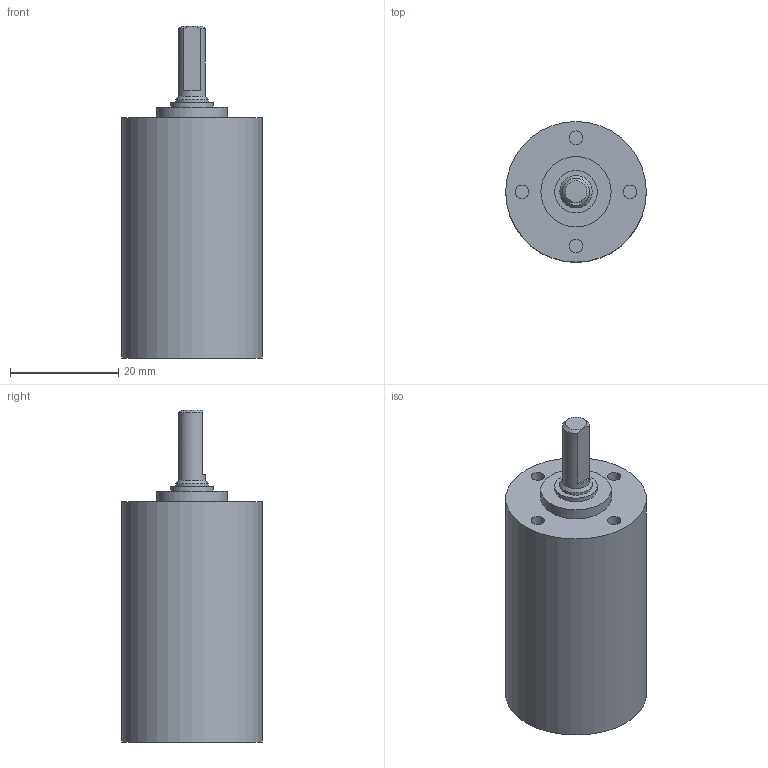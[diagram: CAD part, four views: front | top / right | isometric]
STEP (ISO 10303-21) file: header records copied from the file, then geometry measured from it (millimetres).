
FILE_DESCRIPTION(/* description */ (''),/* implementation_level */ '2;1');
FILE_NAME(/* name */ '26-1R_3stage.stp',/* time_stamp */ '2017-04-18T12:18:11+02:00',/* author */ ('DR. FRITZ FAULHABER GmbH & Co. KG'),/* organization */ ('DR. FRITZ FAULHABER GmbH & Co. KG'),/* preprocessor_version */ 'ST-DEVELOPER v16',/* originating_system */ 'SIEMENS PLM Software NX 10.0',/* authorisation */ '');
FILE_SCHEMA (('AUTOMOTIVE_DESIGN { 1 0 10303 214 3 1 1 1 }'));
Length unit declared in the file: millimetre
Products named in the file (1): H00000165_B
Bounding box: 26 x 26 x 61.4 mm (x, y, z)
Volume: 19680.4 mm3; surface area: 5994.8 mm2
Topology: 1 solids, 1 shells, 33 faces, 56 edges, 37 vertices
Faces by surface type: plane 16, cylinder 15, cone 2
Full cylindrical faces by diameter (mm): 2.5 x4, 5 x1, 6 x1, 7.85 x1, 11.69 x1, 11.7 x1, 13 x1, 21.5 x1, 22.05 x1, 24 x1, 24.459 x1, 26 x1
Entity records: 731 total; most frequent: CARTESIAN_POINT 143, DIRECTION 129, ORIENTED_EDGE 72, AXIS2_PLACEMENT_3D 63, EDGE_LOOP 61, FACE_BOUND 52, EDGE_CURVE 36, ADVANCED_FACE 33
